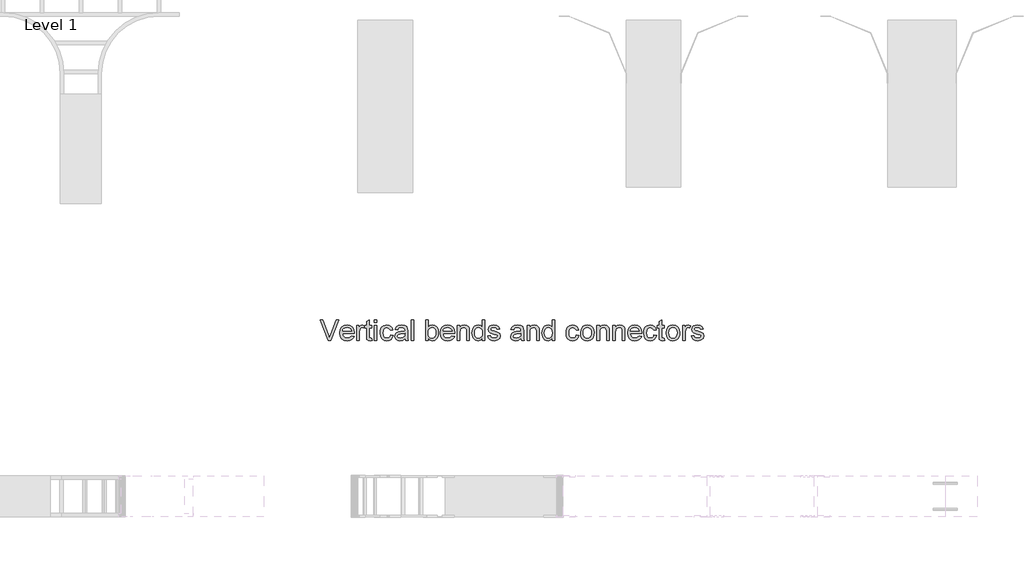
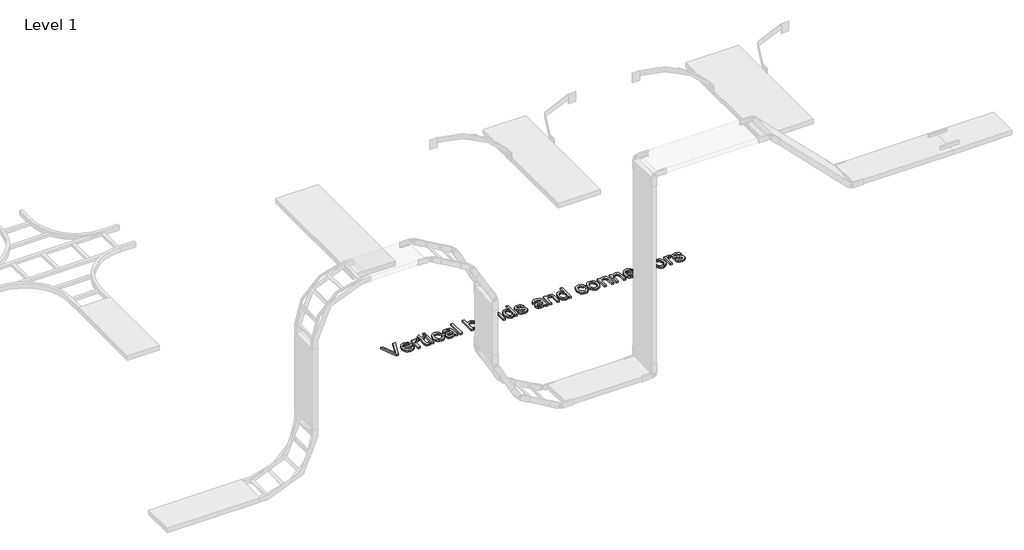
# One storey, part 68 of 106: 1 proxy.
"""IFC4 building model written with IfcOpenShell, lengths in millimetres."""

from ifc_helpers import new_model, si_unit, origin, origin_with_axes, place, context, project, spatial, polyline, outline, extrude, element, save

model = new_model("IFC4")

# Units and contexts
model_context = context("Model", 3, world=origin())
ifc_project = project(units=[si_unit("LENGTHUNIT", "METRE", prefix="MILLI")], contexts=[model_context])

# Site, building, storey
site = spatial("IfcSite", under=ifc_project)
building = spatial("IfcBuilding", under=site)
storey = spatial("IfcBuildingStorey", under=building, Name="Level 1", Elevation=0.0)

# Proxy
placement = place(None, origin())
element("IfcBuildingElementProxy", 1, Name="150mm Arial 2", ObjectType="150mm Arial 2", at=placement, inside=storey, context=model_context, shape_type="SweptSolid", body=[
    extrude(outline(polyline([(54472.9663468, 57347.8476348), (54413.0015816, 57498.5321), (54433.1615149, 57498.5321), (54473.2974406, 57389.9701232), (54481.4276327, 57365.5059705), (54489.4474602, 57389.9701232), (54529.6937505, 57498.5321), (54549.8536838, 57498.5321), (54492.4273044, 57347.8476348), (54472.9663468, 57347.8476348)])), origin_with_axes(), (0.0, 0.0, 1.0), 15.0),
    extrude(outline(polyline([(54642.4863702, 57380.8098615), (54660.9540463, 57378.4554168), (54654.2999808, 57364.5402803), (54643.6819867, 57354.1384169), (54629.3391874, 57347.6544967), (54611.5107062, 57345.49319), (54589.4101953, 57349.2225937), (54572.4048501, 57360.4108049), (54561.5615283, 57378.3312566), (54557.9470877, 57402.2573819), (54561.5983165, 57426.988249), (54572.5520029, 57445.4835163), (54589.3274219, 57457.0166168), (54610.4438484, 57460.8609837), (54630.9026859, 57457.0258139), (54647.250442, 57445.5203045), (54657.9696037, 57427.0618254), (54661.5426575, 57402.3677465), (54661.4322929, 57397.2909749), (54576.7826459, 57397.2909749), (54580.043, 57383.1918975), (54587.6167706, 57372.8268223), (54598.5474644, 57366.4532667), (54611.8785882, 57364.3287482), (54630.3462644, 57368.2650855), (54642.4863702, 57380.8098615)]), holes=[polyline([(54576.7826459, 57416.1265331), (54642.7070994, 57416.1265331), (54640.1595166, 57426.0777411), (54635.1655185, 57433.1962577), (54624.1842409, 57439.8181336), (54610.370272, 57442.0254255), (54597.6737447, 57440.2641905), (54587.1753122, 57434.9804853), (54579.8774531, 57426.7445272), (54576.7826459, 57416.1265331)])]), origin_with_axes(), (0.0, 0.0, 1.0), 15.0),
    extrude(outline(polyline([(54791.0371198, 57363.556196), (54793.3915646, 57347.2958118), (54779.3016842, 57345.49319), (54763.5195466, 57348.620187), (54755.6468719, 57356.8239555), (54753.3660035, 57378.1978994), (54753.3660035, 57439.6709808), (54739.2393349, 57439.6709808), (54739.2393349, 57455.0484482), (54739.2393349, 57458.5065389), (54753.3660035, 57458.5065389), (54753.3660035, 57485.3987128), (54772.2015617, 57496.4719608), (54772.2015617, 57458.5065389), (54791.0371198, 57458.5065389), (54791.0371198, 57439.6709808), (54772.2015617, 57439.6709808), (54772.2015617, 57378.7497224), (54773.1948431, 57369.0376377), (54776.4138105, 57365.597941), (54782.8333514, 57364.3287482), (54791.0371198, 57363.556196)])), origin_with_axes(), (0.0, 0.0, 1.0), 15.0),
    extrude(outline(polyline([(54680.3782157, 57347.8476348), (54680.3782157, 57458.5065389), (54696.8593291, 57458.5065389), (54696.8593291, 57442.1357901), (54708.5579765, 57457.2189519), (54720.3302004, 57460.8609837), (54739.2393349, 57455.0484482), (54732.9485528, 57438.1626646), (54719.704801, 57442.0254255), (54709.0546172, 57438.3098174), (54702.2671944, 57428.0091215), (54699.2137738, 57406.0097782), (54699.2137738, 57347.8476348), (54680.3782157, 57347.8476348)])), origin_with_axes(), (0.0, 0.0, 1.0), 15.0),
    extrude(outline(polyline([(54809.872678, 57479.6965419), (54809.872678, 57498.5321), (54828.7082362, 57498.5321), (54828.7082362, 57479.6965419), (54809.872678, 57479.6965419)])), origin_with_axes(), (0.0, 0.0, 1.0), 15.0),
    extrude(outline(polyline([(54809.872678, 57347.8476348), (54809.872678, 57458.5065389), (54828.7082362, 57458.5065389), (54828.7082362, 57347.8476348), (54809.872678, 57347.8476348)])), origin_with_axes(), (0.0, 0.0, 1.0), 15.0),
    extrude(outline(polyline([(54927.5949165, 57387.8731959), (54946.4304746, 57385.5187511), (54941.1789591, 57368.7663247), (54931.3105246, 57356.1065856), (54917.7540731, 57348.1465389), (54901.4385066, 57345.49319), (54881.4027334, 57349.1950026), (54865.735559, 57360.3004403), (54855.6234026, 57378.3220596), (54852.2526838, 57402.7724167), (54853.6920221, 57419.5340401), (54858.0100371, 57434.0607803), (54865.2757065, 57445.7916175), (54875.5580082, 57454.1655314), (54887.8590624, 57459.1871206), (54901.1809892, 57460.8609837), (54917.096484, 57458.5617212), (54929.8206025, 57451.6639338), (54938.9486745, 57440.5355035), (54944.0760298, 57425.5443122), (54925.2404717, 57423.1898674), (54916.5032743, 57437.2981419), (54901.328142, 57442.0254255), (54889.1558465, 57439.6985719), (54879.4943456, 57432.7180111), (54873.1897679, 57420.7066639), (54871.088242, 57403.2874515), (54873.1437826, 57385.6337142), (54879.3104046, 57373.5809803), (54888.7971615, 57366.6418062), (54900.8131072, 57364.3287482), (54910.5665786, 57365.772685), (54918.5634135, 57370.1044955), (54924.3805475, 57377.4345442), (54927.5949165, 57387.8731959)])), origin_with_axes(), (0.0, 0.0, 1.0), 15.0),
    extrude(outline(polyline([(55033.5449311, 57361.9743034), (55015.27959, 57349.2087982), (54995.1012626, 57345.49319), (54979.3605117, 57347.7280731), (54967.7492362, 57354.4327225), (54960.5893329, 57364.6138567), (54958.2026985, 57377.2781944), (54961.807942, 57392.1774152), (54971.2809034, 57402.9931459), (54984.4694729, 57409.1735634), (55000.7666453, 57412.0062547), (55033.4345665, 57418.4809779), (55033.5449311, 57422.6748326), (55032.248147, 57431.0809362), (55028.3577949, 57436.580772), (55019.6573857, 57440.6642622), (55007.535674, 57442.0254255), (54988.4793867, 57438.4017879), (54979.3927014, 57425.5443122), (54960.5571432, 57427.8987569), (54968.7057294, 57446.2928567), (54985.1132664, 57457.0717991), (55009.9636952, 57460.8609837), (55032.790773, 57457.5132575), (55045.6850369, 57449.107154), (55051.4607842, 57436.3232546), (55052.3804892, 57419.8421412), (55052.3804892, 57396.4080581), (55053.3369824, 57363.6849547), (55057.0893788, 57347.8476348), (55038.2538206, 57347.8476348), (55033.5449311, 57361.9743034)]), holes=[polyline([(55033.5449311, 57399.6454197), (55003.1578783, 57393.8696724), (54986.9526764, 57390.8162518), (54979.6134306, 57385.8498449), (54977.0382566, 57378.6025696), (54982.648457, 57368.4122383), (54999.1111763, 57364.3287482), (55018.1674637, 57368.8353026), (55030.4547223, 57379.7430038), (55033.4345665, 57394.3111308), (55033.5449311, 57399.6454197)])]), origin_with_axes(), (0.0, 0.0, 1.0), 15.0),
    extrude(outline(polyline([(55078.2793817, 57347.8476348), (55078.2793817, 57498.5321), (55097.1149398, 57498.5321), (55097.1149398, 57347.8476348), (55078.2793817, 57347.8476348)])), origin_with_axes(), (0.0, 0.0, 1.0), 15.0),
    extrude(outline(polyline([(55203.0649544, 57347.8476348), (55184.2293963, 57347.8476348), (55184.2293963, 57498.5321), (55203.0649544, 57498.5321), (55203.0649544, 57442.6508249), (55216.253524, 57456.308444), (55232.6426669, 57460.8609837), (55251.5150132, 57456.7590995), (55266.1567166, 57445.2259989), (55275.1514314, 57427.2917516), (55278.4071871, 57404.8325558), (55275.0364683, 57379.6878215), (55264.9243119, 57360.981022), (55250.084872, 57349.365148), (55232.5323023, 57345.49319), (55215.7844744, 57350.4871881), (55203.0649544, 57365.4691823), (55203.0649544, 57347.8476348)]), holes=[polyline([(55203.0649544, 57403.949639), (55204.3525414, 57388.2410779), (55208.2153024, 57377.6092882), (55218.0837369, 57367.6488832), (55230.9136215, 57364.3287482), (55241.7845344, 57366.7751634), (55251.0735548, 57374.1144092), (55257.4471104, 57386.3005003), (55259.5716289, 57403.2874515), (55257.5344824, 57420.5227229), (55251.4230427, 57432.5708583), (55242.4237294, 57439.6617837), (55231.7229619, 57442.0254255), (55220.8520489, 57439.5790103), (55211.5630285, 57432.2397645), (55205.189473, 57420.2744026), (55203.0649544, 57403.949639)])]), origin_with_axes(), (0.0, 0.0, 1.0), 15.0),
    extrude(outline(polyline([(55377.0731382, 57380.8098615), (55395.5408143, 57378.4554168), (55388.8867487, 57364.5402803), (55378.2687546, 57354.1384169), (55363.9259554, 57347.6544967), (55346.0974742, 57345.49319), (55323.9969633, 57349.2225937), (55306.9916181, 57360.4108049), (55296.1482963, 57378.3312566), (55292.5338557, 57402.2573819), (55296.1850845, 57426.988249), (55307.1387709, 57445.4835163), (55323.9141899, 57457.0166168), (55345.0306164, 57460.8609837), (55365.4894538, 57457.0258139), (55381.83721, 57445.5203045), (55392.5563716, 57427.0618254), (55396.1294255, 57402.3677465), (55396.0190609, 57397.2909749), (55311.3694138, 57397.2909749), (55314.629768, 57383.1918975), (55322.2035386, 57372.8268223), (55333.1342324, 57366.4532667), (55346.4653562, 57364.3287482), (55364.9330323, 57368.2650855), (55377.0731382, 57380.8098615)]), holes=[polyline([(55311.3694138, 57416.1265331), (55377.2938674, 57416.1265331), (55374.7462845, 57426.0777411), (55369.7522865, 57433.1962577), (55358.7710089, 57439.8181336), (55344.95704, 57442.0254255), (55332.2605126, 57440.2641905), (55321.7620802, 57434.9804853), (55314.4642211, 57426.7445272), (55311.3694138, 57416.1265331)])]), origin_with_axes(), (0.0, 0.0, 1.0), 15.0),
    extrude(outline(polyline([(55414.9649837, 57347.8476348), (55414.9649837, 57458.5065389), (55433.8005418, 57458.5065389), (55433.8005418, 57443.0554951), (55448.2031219, 57456.4096116), (55467.8664146, 57460.8609837), (55485.653509, 57457.2741342), (55497.7936149, 57447.8563552), (55503.4406035, 57434.0055981), (55504.4338849, 57415.7954393), (55504.4338849, 57347.8476348), (55485.5983267, 57347.8476348), (55485.5983267, 57413.2570535), (55483.427823, 57429.9221079), (55475.7574834, 57438.7328817), (55462.8264312, 57442.0254255), (55451.7945699, 57440.1768185), (55442.3905864, 57434.6309974), (55435.948053, 57423.9164343), (55433.8005418, 57406.5616012), (55433.8005418, 57347.8476348), (55414.9649837, 57347.8476348)])), origin_with_axes(), (0.0, 0.0, 1.0), 15.0),
    extrude(outline(polyline([(55598.6116757, 57347.8476348), (55598.6116757, 57365.6163351), (55586.1496731, 57350.5239763), (55568.9235986, 57345.49319), (55556.7467046, 57347.3142059), (55545.5998802, 57352.7772535), (55536.163707, 57361.5006553), (55529.1187668, 57373.1027337), (55524.731774, 57387.1144392), (55523.269443, 57403.0667223), (55528.6589143, 57433.0491049), (55535.3911548, 57444.9408904), (55544.8089339, 57453.6872848), (55556.1994801, 57459.067559), (55568.8500222, 57460.8609837), (55586.2140524, 57455.7290299), (55598.6116757, 57442.3933075), (55598.6116757, 57498.5321), (55617.4472338, 57498.5321), (55617.4472338, 57347.8476348), (55598.6116757, 57347.8476348)]), holes=[polyline([(55542.1050012, 57403.1402987), (55544.2295197, 57386.1027638), (55550.6030753, 57373.9856505), (55559.8645045, 57366.7429738), (55570.652644, 57364.3287482), (55581.436185, 57366.6326092), (55590.4630895, 57373.5441921), (55596.5745291, 57385.1922558), (55598.6116757, 57401.7055589), (55596.5377409, 57419.7593678), (55590.3159367, 57432.2765527), (55581.059106, 57439.5882073), (55569.8800918, 57442.0254255), (55558.9815877, 57439.6847764), (55550.0512523, 57432.6628288), (55544.091564, 57420.6008979), (55542.1050012, 57403.1402987)])]), origin_with_axes(), (0.0, 0.0, 1.0), 15.0),
    extrude(outline(polyline([(55638.6372367, 57380.8098615), (55657.4727949, 57383.1643063), (55660.443442, 57375.1076906), (55666.1915982, 57369.1847905), (55686.1675905, 57364.3287482), (55705.3710307, 57368.7801203), (55711.6250246, 57379.227969), (55710.052329, 57384.028829), (55705.3342425, 57387.6892549), (55685.9468613, 57393.060332), (55657.5831595, 57402.275776), (55645.2039303, 57413.0363243), (55640.9916815, 57428.2298507), (55644.3761959, 57442.2645488), (55653.6100339, 57452.988309), (55665.5845929, 57458.5617212), (55681.7897948, 57460.8609837), (55704.7088431, 57457.1637696), (55719.2769701, 57447.1573794), (55725.7516932, 57430.2532017), (55706.916135, 57427.8987569), (55699.8344066, 57438.2914233), (55683.2613227, 57442.0254255), (55665.235105, 57438.4569702), (55659.8272397, 57430.1428371), (55662.0713198, 57424.6613954), (55669.0978659, 57420.5043288), (55685.3214619, 57416.4944151), (55712.9677939, 57407.628459), (55725.8068755, 57397.5852805), (55730.4605827, 57381.2145317), (55724.9975351, 57363.188314), (55709.2337916, 57350.1101091), (55685.9100731, 57345.49319), (55666.9181651, 57347.7188761), (55653.0582109, 57354.3959343), (55643.8059788, 57365.4507882), (55638.6372367, 57380.8098615)])), origin_with_axes(), (0.0, 0.0, 1.0), 15.0),
    extrude(outline(polyline([(55881.145048, 57361.9743034), (55862.8797069, 57349.2087982), (55842.7013795, 57345.49319), (55826.9606286, 57347.7280731), (55815.3493531, 57354.4327225), (55808.1894498, 57364.6138567), (55805.8028153, 57377.2781944), (55809.4080589, 57392.1774152), (55818.8810203, 57402.9931459), (55832.0695898, 57409.1735634), (55848.3667622, 57412.0062547), (55881.0346834, 57418.4809779), (55881.145048, 57422.6748326), (55879.8482639, 57431.0809362), (55875.9579118, 57436.580772), (55867.2575026, 57440.6642622), (55855.1357909, 57442.0254255), (55836.0795035, 57438.4017879), (55826.9928183, 57425.5443122), (55808.1572601, 57427.8987569), (55816.3058463, 57446.2928567), (55832.7133833, 57457.0717991), (55857.5638121, 57460.8609837), (55880.3908899, 57457.5132575), (55893.2851538, 57449.107154), (55899.0609011, 57436.3232546), (55899.9806061, 57419.8421412), (55899.9806061, 57396.4080581), (55900.9370993, 57363.6849547), (55904.6894956, 57347.8476348), (55885.8539375, 57347.8476348), (55881.145048, 57361.9743034)]), holes=[polyline([(55881.145048, 57399.6454197), (55850.7579952, 57393.8696724), (55834.5527933, 57390.8162518), (55827.2135475, 57385.8498449), (55824.6383735, 57378.6025696), (55830.2485739, 57368.4122383), (55846.7112932, 57364.3287482), (55865.7675806, 57368.8353026), (55878.0548392, 57379.7430038), (55881.0346834, 57394.3111308), (55881.145048, 57399.6454197)])]), origin_with_axes(), (0.0, 0.0, 1.0), 15.0),
    extrude(outline(polyline([(55925.8794986, 57347.8476348), (55925.8794986, 57458.5065389), (55944.7150567, 57458.5065389), (55944.7150567, 57443.0554951), (55959.1176368, 57456.4096116), (55978.7809295, 57460.8609837), (55996.5680239, 57457.2741342), (56008.7081298, 57447.8563552), (56014.3551184, 57434.0055981), (56015.3483998, 57415.7954393), (56015.3483998, 57347.8476348), (55996.5128416, 57347.8476348), (55996.5128416, 57413.2570535), (55994.3423379, 57429.9221079), (55986.6719983, 57438.7328817), (55973.7409461, 57442.0254255), (55962.7090848, 57440.1768185), (55953.3051013, 57434.6309974), (55946.8625679, 57423.9164343), (55944.7150567, 57406.5616012), (55944.7150567, 57347.8476348), (55925.8794986, 57347.8476348)])), origin_with_axes(), (0.0, 0.0, 1.0), 15.0),
    extrude(outline(polyline([(56109.5261906, 57347.8476348), (56109.5261906, 57365.6163351), (56097.064188, 57350.5239763), (56079.8381135, 57345.49319), (56067.6612195, 57347.3142059), (56056.5143951, 57352.7772535), (56047.0782219, 57361.5006553), (56040.0332817, 57373.1027337), (56035.6462889, 57387.1144392), (56034.1839579, 57403.0667223), (56039.5734292, 57433.0491049), (56046.3056697, 57444.9408904), (56055.7234488, 57453.6872848), (56067.113995, 57459.067559), (56079.7645371, 57460.8609837), (56097.1285673, 57455.7290299), (56109.5261906, 57442.3933075), (56109.5261906, 57498.5321), (56128.3617487, 57498.5321), (56128.3617487, 57347.8476348), (56109.5261906, 57347.8476348)]), holes=[polyline([(56053.0195161, 57403.1402987), (56055.1440346, 57386.1027638), (56061.5175902, 57373.9856505), (56070.7790194, 57366.7429738), (56081.5671589, 57364.3287482), (56092.3506999, 57366.6326092), (56101.3776044, 57373.5441921), (56107.489044, 57385.1922558), (56109.5261906, 57401.7055589), (56107.4522558, 57419.7593678), (56101.2304516, 57432.2765527), (56091.9736209, 57439.5882073), (56080.7946067, 57442.0254255), (56069.8961026, 57439.6847764), (56060.9657672, 57432.6628288), (56055.0060789, 57420.6008979), (56053.0195161, 57403.1402987)])]), origin_with_axes(), (0.0, 0.0, 1.0), 15.0),
    extrude(outline(polyline([(56286.1095482, 57387.8731959), (56304.9451064, 57385.5187511), (56299.6935909, 57368.7663247), (56289.8251564, 57356.1065856), (56276.2687049, 57348.1465389), (56259.9531384, 57345.49319), (56239.9173652, 57349.1950026), (56224.2501908, 57360.3004403), (56214.1380344, 57378.3220596), (56210.7673156, 57402.7724167), (56212.2066539, 57419.5340401), (56216.5246689, 57434.0607803), (56223.7903383, 57445.7916175), (56234.07264, 57454.1655314), (56246.3736942, 57459.1871206), (56259.695621, 57460.8609837), (56275.6111158, 57458.5617212), (56288.3352343, 57451.6639338), (56297.4633063, 57440.5355035), (56302.5906616, 57425.5443122), (56283.7551035, 57423.1898674), (56275.0179061, 57437.2981419), (56259.8427738, 57442.0254255), (56247.6704783, 57439.6985719), (56238.0089774, 57432.7180111), (56231.7043997, 57420.7066639), (56229.6028738, 57403.2874515), (56231.6584144, 57385.6337142), (56237.8250364, 57373.5809803), (56247.3117933, 57366.6418062), (56259.327739, 57364.3287482), (56269.0812104, 57365.772685), (56277.0780453, 57370.1044955), (56282.8951793, 57377.4345442), (56286.1095482, 57387.8731959)])), origin_with_axes(), (0.0, 0.0, 1.0), 15.0),
    extrude(outline(polyline([(56316.7173302, 57403.1770869), (56320.7916233, 57429.8577286), (56333.0145026, 57448.6105133), (56348.1160585, 57457.7983661), (56366.1974586, 57460.8609837), (56385.9849114, 57457.13158), (56401.7900416, 57445.9433688), (56412.1505183, 57428.179267), (56415.6040105, 57404.7221912), (56414.0773003, 57385.693495), (56409.4971694, 57371.2081415), (56401.9969752, 57360.3602211), (56391.710075, 57352.2438246), (56379.4917942, 57347.1808487), (56366.1974586, 57345.49319), (56346.1708825, 57349.2087982), (56330.3841464, 57360.3556226), (56320.1340343, 57378.492205), (56316.7173302, 57403.1770869)]), holes=[polyline([(56335.5528884, 57403.2138751), (56337.7325892, 57386.1671431), (56344.2716917, 57374.0224387), (56354.1125351, 57366.7521708), (56366.1974586, 57364.3287482), (56378.2271998, 57366.7659664), (56388.0496491, 57374.077621), (56394.5887516, 57386.3832738), (56396.7684524, 57403.8024862), (56394.574956, 57420.3525775), (56387.9944668, 57432.331735), (56378.158222, 57439.6020029), (56366.1974586, 57442.0254255), (56354.1125351, 57439.6112), (56344.2716917, 57432.3685232), (56337.7325892, 57420.25141), (56335.5528884, 57403.2138751)])]), origin_with_axes(), (0.0, 0.0, 1.0), 15.0),
    extrude(outline(polyline([(56436.7940135, 57347.8476348), (56436.7940135, 57458.5065389), (56455.6295716, 57458.5065389), (56455.6295716, 57443.0554951), (56470.0321517, 57456.4096116), (56489.6954444, 57460.8609837), (56507.4825388, 57457.2741342), (56519.6226447, 57447.8563552), (56525.2696333, 57434.0055981), (56526.2629147, 57415.7954393), (56526.2629147, 57347.8476348), (56507.4273565, 57347.8476348), (56507.4273565, 57413.2570535), (56505.2568528, 57429.9221079), (56497.5865132, 57438.7328817), (56484.655461, 57442.0254255), (56473.6235997, 57440.1768185), (56464.2196162, 57434.6309974), (56457.7770828, 57423.9164343), (56455.6295716, 57406.5616012), (56455.6295716, 57347.8476348), (56436.7940135, 57347.8476348)])), origin_with_axes(), (0.0, 0.0, 1.0), 15.0),
    extrude(outline(polyline([(56552.1618072, 57347.8476348), (56552.1618072, 57458.5065389), (56570.9973653, 57458.5065389), (56570.9973653, 57443.0554951), (56585.3999454, 57456.4096116), (56605.0632381, 57460.8609837), (56622.8503325, 57457.2741342), (56634.9904384, 57447.8563552), (56640.637427, 57434.0055981), (56641.6307084, 57415.7954393), (56641.6307084, 57347.8476348), (56622.7951502, 57347.8476348), (56622.7951502, 57413.2570535), (56620.6246465, 57429.9221079), (56612.9543069, 57438.7328817), (56600.0232547, 57442.0254255), (56588.9913934, 57440.1768185), (56579.5874099, 57434.6309974), (56573.1448765, 57423.9164343), (56570.9973653, 57406.5616012), (56570.9973653, 57347.8476348), (56552.1618072, 57347.8476348)])), origin_with_axes(), (0.0, 0.0, 1.0), 15.0),
    extrude(outline(polyline([(56745.005549, 57380.8098615), (56763.4732252, 57378.4554168), (56756.8191596, 57364.5402803), (56746.2011655, 57354.1384169), (56731.8583662, 57347.6544967), (56714.029885, 57345.49319), (56691.9293742, 57349.2225937), (56674.9240289, 57360.4108049), (56664.0807071, 57378.3312566), (56660.4662665, 57402.2573819), (56664.1174953, 57426.988249), (56675.0711817, 57445.4835163), (56691.8466007, 57457.0166168), (56712.9630272, 57460.8609837), (56733.4218647, 57457.0258139), (56749.7696209, 57445.5203045), (56760.4887825, 57427.0618254), (56764.0618364, 57402.3677465), (56763.9514718, 57397.2909749), (56679.3018247, 57397.2909749), (56682.5621789, 57383.1918975), (56690.1359494, 57372.8268223), (56701.0666432, 57366.4532667), (56714.397767, 57364.3287482), (56732.8654432, 57368.2650855), (56745.005549, 57380.8098615)]), holes=[polyline([(56679.3018247, 57416.1265331), (56745.2262782, 57416.1265331), (56742.6786954, 57426.0777411), (56737.6846973, 57433.1962577), (56726.7034198, 57439.8181336), (56712.8894508, 57442.0254255), (56700.1929235, 57440.2641905), (56689.6944911, 57434.9804853), (56682.396632, 57426.7445272), (56679.3018247, 57416.1265331)])]), origin_with_axes(), (0.0, 0.0, 1.0), 15.0),
    extrude(outline(polyline([(56853.5307376, 57387.8731959), (56872.3662958, 57385.5187511), (56867.1147803, 57368.7663247), (56857.2463458, 57356.1065856), (56843.6898942, 57348.1465389), (56827.3743277, 57345.49319), (56807.3385546, 57349.1950026), (56791.6713801, 57360.3004403), (56781.5592238, 57378.3220596), (56778.188505, 57402.7724167), (56779.6278433, 57419.5340401), (56783.9458582, 57434.0607803), (56791.2115276, 57445.7916175), (56801.4938294, 57454.1655314), (56813.7948836, 57459.1871206), (56827.1168103, 57460.8609837), (56843.0323052, 57458.5617212), (56855.7564237, 57451.6639338), (56864.8844957, 57440.5355035), (56870.011851, 57425.5443122), (56851.1762928, 57423.1898674), (56842.4390954, 57437.2981419), (56827.2639631, 57442.0254255), (56815.0916676, 57439.6985719), (56805.4301667, 57432.7180111), (56799.125589, 57420.7066639), (56797.0240631, 57403.2874515), (56799.0796038, 57385.6337142), (56805.2462257, 57373.5809803), (56814.7329827, 57366.6418062), (56826.7489284, 57364.3287482), (56836.5023998, 57365.772685), (56844.4992346, 57370.1044955), (56850.3163687, 57377.4345442), (56853.5307376, 57387.8731959)])), origin_with_axes(), (0.0, 0.0, 1.0), 15.0),
    extrude(outline(polyline([(56928.8729702, 57363.556196), (56931.227415, 57347.2958118), (56917.1375346, 57345.49319), (56901.355397, 57348.620187), (56893.4827223, 57356.8239555), (56891.2018539, 57378.1978994), (56891.2018539, 57439.6709808), (56877.0751853, 57439.6709808), (56877.0751853, 57458.5065389), (56891.2018539, 57458.5065389), (56891.2018539, 57485.3987128), (56910.0374121, 57496.4719608), (56910.0374121, 57458.5065389), (56928.8729702, 57458.5065389), (56928.8729702, 57439.6709808), (56910.0374121, 57439.6709808), (56910.0374121, 57378.7497224), (56911.0306934, 57369.0376377), (56914.2496609, 57365.597941), (56920.6692017, 57364.3287482), (56928.8729702, 57363.556196)])), origin_with_axes(), (0.0, 0.0, 1.0), 15.0),
    extrude(outline(polyline([(56942.9996388, 57403.1770869), (56947.0739319, 57429.8577286), (56959.2968112, 57448.6105133), (56974.3983671, 57457.7983661), (56992.4797672, 57460.8609837), (57012.26722, 57457.13158), (57028.0723502, 57445.9433688), (57038.4328269, 57428.179267), (57041.8863191, 57404.7221912), (57040.3596089, 57385.693495), (57035.779478, 57371.2081415), (57028.2792838, 57360.3602211), (57017.9923835, 57352.2438246), (57005.7741028, 57347.1808487), (56992.4797672, 57345.49319), (56972.4531911, 57349.2087982), (56956.666455, 57360.3556226), (56946.4163429, 57378.492205), (56942.9996388, 57403.1770869)]), holes=[polyline([(56961.835197, 57403.2138751), (56964.0148978, 57386.1671431), (56970.5540003, 57374.0224387), (56980.3948436, 57366.7521708), (56992.4797672, 57364.3287482), (57004.5095084, 57366.7659664), (57014.3319577, 57374.077621), (57020.8710602, 57386.3832738), (57023.050761, 57403.8024862), (57020.8572646, 57420.3525775), (57014.2767754, 57432.331735), (57004.4405305, 57439.6020029), (56992.4797672, 57442.0254255), (56980.3948436, 57439.6112), (56970.5540003, 57432.3685232), (56964.0148978, 57420.25141), (56961.835197, 57403.2138751)])]), origin_with_axes(), (0.0, 0.0, 1.0), 15.0),
    extrude(outline(polyline([(57063.0763221, 57347.8476348), (57063.0763221, 57458.5065389), (57079.5574354, 57458.5065389), (57079.5574354, 57442.1357901), (57091.2560829, 57457.2189519), (57103.0283067, 57460.8609837), (57121.9374413, 57455.0484482), (57115.6466592, 57438.1626646), (57102.4029073, 57442.0254255), (57091.7527236, 57438.3098174), (57084.9653008, 57428.0091215), (57081.9118802, 57406.0097782), (57081.9118802, 57347.8476348), (57063.0763221, 57347.8476348)])), origin_with_axes(), (0.0, 0.0, 1.0), 15.0),
    extrude(outline(polyline([(57126.6463308, 57380.8098615), (57145.481889, 57383.1643063), (57148.4525361, 57375.1076906), (57154.2006923, 57369.1847905), (57174.1766846, 57364.3287482), (57193.3801247, 57368.7801203), (57199.6341187, 57379.227969), (57198.0614231, 57384.028829), (57193.3433365, 57387.6892549), (57173.9559554, 57393.060332), (57145.5922536, 57402.275776), (57133.2130244, 57413.0363243), (57129.0007756, 57428.2298507), (57132.3852899, 57442.2645488), (57141.619128, 57452.988309), (57153.593687, 57458.5617212), (57169.7988889, 57460.8609837), (57192.7179372, 57457.1637696), (57207.2860642, 57447.1573794), (57213.7607873, 57430.2532017), (57194.9252291, 57427.8987569), (57187.8435007, 57438.2914233), (57171.2704168, 57442.0254255), (57153.2441991, 57438.4569702), (57147.8363337, 57430.1428371), (57150.0804139, 57424.6613954), (57157.10696, 57420.5043288), (57173.330556, 57416.4944151), (57200.9768879, 57407.628459), (57213.8159696, 57397.5852805), (57218.4696768, 57381.2145317), (57213.0066292, 57363.188314), (57197.2428857, 57350.1101091), (57173.9191672, 57345.49319), (57154.9272592, 57347.7188761), (57141.067305, 57354.3959343), (57131.8150729, 57365.4507882), (57126.6463308, 57380.8098615)])), origin_with_axes(), (0.0, 0.0, 1.0), 15.0),
])

save(model, "model.ifc")
